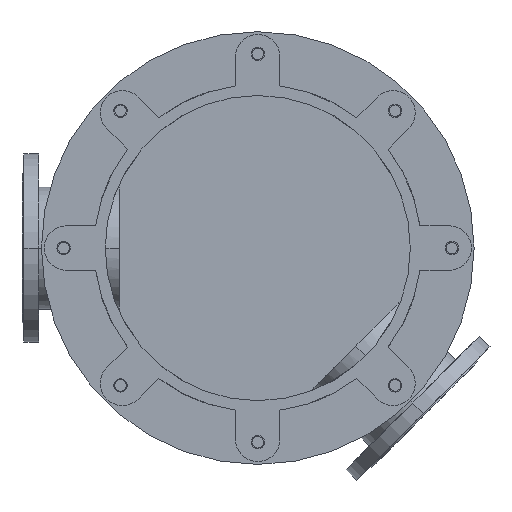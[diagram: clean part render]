
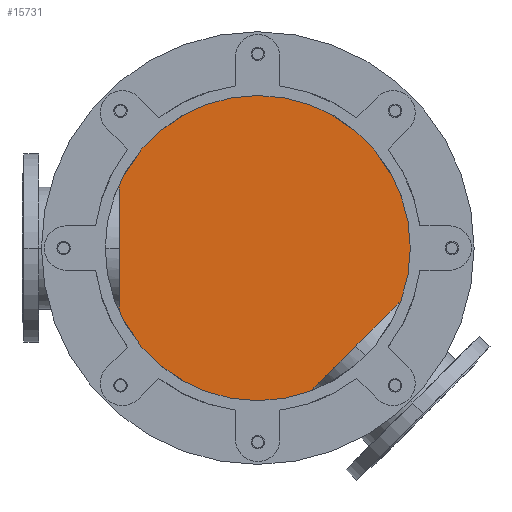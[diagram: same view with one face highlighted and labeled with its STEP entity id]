
A CAD part, front view. The second image highlights one B-rep face of the part: STEP entity #15731.
In plain terms, the highlighted planar face has unit normal (0, -1, 0).
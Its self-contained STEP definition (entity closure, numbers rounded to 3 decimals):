
#3896=CARTESIAN_POINT('',(0.,1117.,0.));
#3897=DIRECTION('',(0.,-1.,0.));
#3898=DIRECTION('',(0.,0.,-1.));
#3899=AXIS2_PLACEMENT_3D('',#3896,#3897,#3898);
#4044=CARTESIAN_POINT('',(0.,1117.,0.));
#4045=DIRECTION('',(0.,-1.,0.));
#4046=DIRECTION('',(0.,0.,1.));
#4047=AXIS2_PLACEMENT_3D('',#4044,#4045,#4046);
#9181=CARTESIAN_POINT('',(0.,1117.,290.));
#9182=CARTESIAN_POINT('',(0.,1117.,-290.));
#9183=VERTEX_POINT('',#9181);
#9184=VERTEX_POINT('',#9182);
#15722=CARTESIAN_POINT('',(0.,1117.,0.));
#15723=DIRECTION('',(0.,1.,0.));
#15724=DIRECTION('',(0.,0.,-1.));
#15725=AXIS2_PLACEMENT_3D('',#15722,#15723,#15724);
#15726=PLANE('',#15725);
#15727=ORIENTED_EDGE('',*,*,#15708,.F.);
#15728=ORIENTED_EDGE('',*,*,#15607,.F.);
#15729=EDGE_LOOP('',(#15727,#15728));
#15730=FACE_OUTER_BOUND('',#15729,.F.);
#15731=ADVANCED_FACE('',(#15730),#15726,.F.);
#3900=CIRCLE('',#3899,290.);
#4048=CIRCLE('',#4047,290.);
#15607=EDGE_CURVE('',#9184,#9183,#3900,.T.);
#15708=EDGE_CURVE('',#9183,#9184,#4048,.T.);
